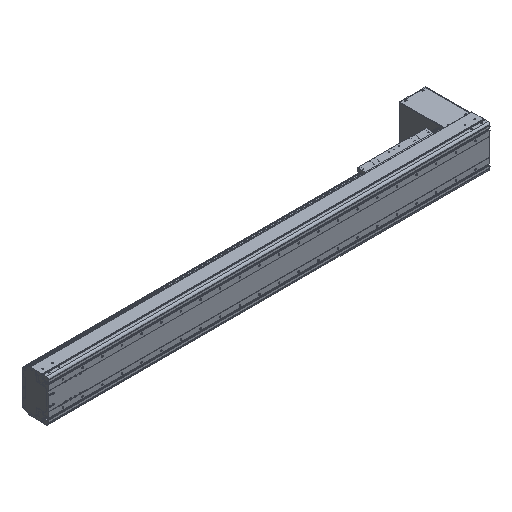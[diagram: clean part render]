
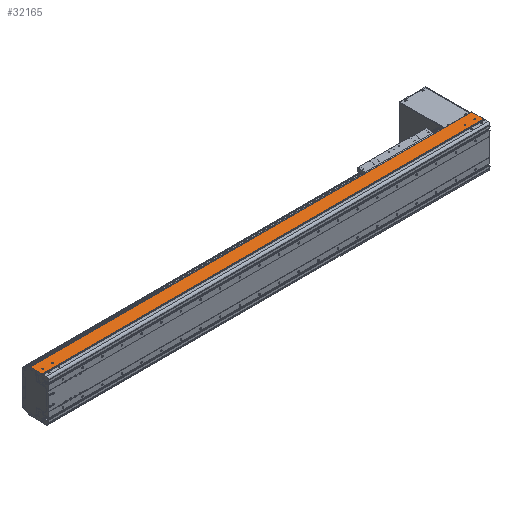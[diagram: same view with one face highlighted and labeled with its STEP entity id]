
A CAD part, isometric view. The second image highlights one B-rep face of the part: STEP entity #32165.
In plain terms, the highlighted planar face has unit normal (0, 0, 1).
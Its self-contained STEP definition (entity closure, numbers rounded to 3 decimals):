
#8553=DIRECTION('',(-1.,-0.006,-0.017));
#8554=VECTOR('',#8553,1.5);
#8555=CARTESIAN_POINT('',(1.5,94.,107.));
#8556=LINE('',#8555,#8554);
#8557=DIRECTION('',(-1.,0.,0.));
#8558=VECTOR('',#8557,2248.5);
#8559=CARTESIAN_POINT('',(0.,93.5,107.));
#8560=LINE('',#8559,#8558);
#8595=CARTESIAN_POINT('',(0.,93.992,106.974));
#8596=CARTESIAN_POINT('',(0.,93.906,
106.974));
#8597=CARTESIAN_POINT('',(0.,93.75,
107.013));
#8598=CARTESIAN_POINT('',(0.,93.581,107.));
#8599=CARTESIAN_POINT('',(0.,93.5,107.));
#8601=CARTESIAN_POINT('',(-2223.5,54.,107.));
#8602=DIRECTION('',(0.,0.,-1.));
#8603=DIRECTION('',(1.,0.,0.));
#8604=AXIS2_PLACEMENT_3D('',#8601,#8602,#8603);
#8606=CARTESIAN_POINT('',(-2223.5,54.,107.));
#8607=DIRECTION('',(0.,0.,-1.));
#8608=DIRECTION('',(-1.,0.,0.));
#8609=AXIS2_PLACEMENT_3D('',#8606,#8607,#8608);
#8611=CARTESIAN_POINT('',(-2173.5,54.,107.));
#8612=DIRECTION('',(0.,0.,-1.));
#8613=DIRECTION('',(1.,0.,0.));
#8614=AXIS2_PLACEMENT_3D('',#8611,#8612,#8613);
#8616=CARTESIAN_POINT('',(-2173.5,54.,107.));
#8617=DIRECTION('',(0.,0.,-1.));
#8618=DIRECTION('',(-1.,0.,0.));
#8619=AXIS2_PLACEMENT_3D('',#8616,#8617,#8618);
#8621=CARTESIAN_POINT('',(-23.5,54.,107.));
#8622=DIRECTION('',(0.,0.,-1.));
#8623=DIRECTION('',(1.,0.,0.));
#8624=AXIS2_PLACEMENT_3D('',#8621,#8622,#8623);
#8626=CARTESIAN_POINT('',(-23.5,54.,107.));
#8627=DIRECTION('',(0.,0.,-1.));
#8628=DIRECTION('',(-1.,0.,0.));
#8629=AXIS2_PLACEMENT_3D('',#8626,#8627,#8628);
#8631=CARTESIAN_POINT('',(-73.5,54.,107.));
#8632=DIRECTION('',(0.,0.,-1.));
#8633=DIRECTION('',(1.,0.,0.));
#8634=AXIS2_PLACEMENT_3D('',#8631,#8632,#8633);
#8636=CARTESIAN_POINT('',(-73.5,54.,107.));
#8637=DIRECTION('',(0.,0.,-1.));
#8638=DIRECTION('',(-1.,0.,0.));
#8639=AXIS2_PLACEMENT_3D('',#8636,#8637,#8638);
#8641=DIRECTION('',(0.,-1.,0.));
#8642=VECTOR('',#8641,2.55);
#8643=CARTESIAN_POINT('',(-2246.5,34.65,107.));
#8644=LINE('',#8643,#8642);
#8645=DIRECTION('',(0.,-1.,0.));
#8646=VECTOR('',#8645,58.85);
#8647=CARTESIAN_POINT('',(-2248.5,93.5,107.));
#8648=LINE('',#8647,#8646);
#8649=DIRECTION('',(0.,1.,0.));
#8650=VECTOR('',#8649,58.35);
#8651=CARTESIAN_POINT('',(1.5,35.65,107.));
#8652=LINE('',#8651,#8650);
#8653=DIRECTION('',(0.,1.,0.));
#8654=VECTOR('',#8653,3.55);
#8655=CARTESIAN_POINT('',(0.,32.1,107.));
#8656=LINE('',#8655,#8654);
#8657=DIRECTION('',(1.,0.,0.));
#8658=VECTOR('',#8657,2246.5);
#8659=CARTESIAN_POINT('',(-2246.5,32.1,107.));
#8660=LINE('',#8659,#8658);
#8769=DIRECTION('',(1.,0.,0.));
#8770=VECTOR('',#8769,2.);
#8771=CARTESIAN_POINT('',(-2248.5,34.65,107.));
#8772=LINE('',#8771,#8770);
#8793=DIRECTION('',(1.,0.,0.));
#8794=VECTOR('',#8793,1.5);
#8795=CARTESIAN_POINT('',(0.,35.65,107.));
#8796=LINE('',#8795,#8794);
#17574=CARTESIAN_POINT('',(1.5,94.,107.));
#17575=VERTEX_POINT('',#17574);
#17576=CARTESIAN_POINT('',(1.5,35.65,107.));
#17577=VERTEX_POINT('',#17576);
#17646=CARTESIAN_POINT('',(-2248.5,34.65,107.));
#17647=VERTEX_POINT('',#17646);
#17648=CARTESIAN_POINT('',(-2248.5,93.5,107.));
#17649=VERTEX_POINT('',#17648);
#17874=CARTESIAN_POINT('',(-2246.5,32.1,107.));
#17875=VERTEX_POINT('',#17874);
#17925=CARTESIAN_POINT('',(0.,32.1,107.));
#17927=VERTEX_POINT('',#17925);
#18508=CARTESIAN_POINT('',(-2221.,54.,107.));
#18509=CARTESIAN_POINT('',(-2226.,54.,107.));
#18510=VERTEX_POINT('',#18508);
#18511=VERTEX_POINT('',#18509);
#18512=CARTESIAN_POINT('',(-2171.,54.,107.));
#18513=CARTESIAN_POINT('',(-2176.,54.,107.));
#18514=VERTEX_POINT('',#18512);
#18515=VERTEX_POINT('',#18513);
#18516=CARTESIAN_POINT('',(-21.,54.,107.));
#18517=CARTESIAN_POINT('',(-26.,54.,107.));
#18518=VERTEX_POINT('',#18516);
#18519=VERTEX_POINT('',#18517);
#18520=CARTESIAN_POINT('',(-71.,54.,107.));
#18521=CARTESIAN_POINT('',(-76.,54.,107.));
#18522=VERTEX_POINT('',#18520);
#18523=VERTEX_POINT('',#18521);
#20786=CARTESIAN_POINT('',(0.,35.65,107.));
#20787=VERTEX_POINT('',#20786);
#20788=CARTESIAN_POINT('',(0.,93.975,106.923));
#20790=VERTEX_POINT('',#20788);
#20933=VERTEX_POINT('',#8599);
#21391=CARTESIAN_POINT('',(-2246.5,34.65,107.));
#21392=VERTEX_POINT('',#21391);
#32121=CARTESIAN_POINT('',(-1123.25,62.8,107.));
#32122=DIRECTION('',(0.,0.,1.));
#32123=DIRECTION('',(0.,-1.,0.));
#32124=AXIS2_PLACEMENT_3D('',#32121,#32122,#32123);
#32125=PLANE('',#32124);
#32126=ORIENTED_EDGE('',*,*,#23209,.F.);
#32128=ORIENTED_EDGE('',*,*,#32127,.F.);
#32129=ORIENTED_EDGE('',*,*,#25429,.F.);
#32130=ORIENTED_EDGE('',*,*,#32105,.F.);
#32131=ORIENTED_EDGE('',*,*,#32116,.F.);
#32132=ORIENTED_EDGE('',*,*,#32095,.F.);
#32133=ORIENTED_EDGE('',*,*,#22135,.F.);
#32135=ORIENTED_EDGE('',*,*,#32134,.F.);
#32136=ORIENTED_EDGE('',*,*,#23966,.F.);
#32138=ORIENTED_EDGE('',*,*,#32137,.F.);
#32139=EDGE_LOOP('',(#32126,#32128,#32129,#32130,#32131,#32132,#32133,#32135,
#32136,#32138));
#32140=FACE_OUTER_BOUND('',#32139,.F.);
#32142=ORIENTED_EDGE('',*,*,#32141,.F.);
#32144=ORIENTED_EDGE('',*,*,#32143,.F.);
#32145=EDGE_LOOP('',(#32142,#32144));
#32146=FACE_BOUND('',#32145,.F.);
#32148=ORIENTED_EDGE('',*,*,#32147,.F.);
#32150=ORIENTED_EDGE('',*,*,#32149,.F.);
#32151=EDGE_LOOP('',(#32148,#32150));
#32152=FACE_BOUND('',#32151,.F.);
#32154=ORIENTED_EDGE('',*,*,#32153,.F.);
#32156=ORIENTED_EDGE('',*,*,#32155,.F.);
#32157=EDGE_LOOP('',(#32154,#32156));
#32158=FACE_BOUND('',#32157,.F.);
#32160=ORIENTED_EDGE('',*,*,#32159,.F.);
#32162=ORIENTED_EDGE('',*,*,#32161,.F.);
#32163=EDGE_LOOP('',(#32160,#32162));
#32164=FACE_BOUND('',#32163,.F.);
#32165=ADVANCED_FACE('',(#32140,#32146,#32152,#32158,#32164),#32125,.T.);
#8600=B_SPLINE_CURVE_WITH_KNOTS('',3,(#8595,#8596,#8597,#8598,#8599),
.UNSPECIFIED.,.F.,.F.,(4,1,4),(0.,0.5,1.),.UNSPECIFIED.);
#8605=CIRCLE('',#8604,2.5);
#8610=CIRCLE('',#8609,2.5);
#8615=CIRCLE('',#8614,2.5);
#8620=CIRCLE('',#8619,2.5);
#8625=CIRCLE('',#8624,2.5);
#8630=CIRCLE('',#8629,2.5);
#8635=CIRCLE('',#8634,2.5);
#8640=CIRCLE('',#8639,2.5);
#22135=EDGE_CURVE('',#17577,#17575,#8652,.T.);
#23209=EDGE_CURVE('',#21392,#17875,#8644,.T.);
#23966=EDGE_CURVE('',#17927,#20787,#8656,.T.);
#25429=EDGE_CURVE('',#17649,#17647,#8648,.T.);
#32095=EDGE_CURVE('',#17575,#20790,#8556,.T.);
#32105=EDGE_CURVE('',#20933,#17649,#8560,.T.);
#32116=EDGE_CURVE('',#20790,#20933,#8600,.T.);
#32127=EDGE_CURVE('',#17647,#21392,#8772,.T.);
#32134=EDGE_CURVE('',#20787,#17577,#8796,.T.);
#32137=EDGE_CURVE('',#17875,#17927,#8660,.T.);
#32141=EDGE_CURVE('',#18514,#18515,#8615,.T.);
#32143=EDGE_CURVE('',#18515,#18514,#8620,.T.);
#32147=EDGE_CURVE('',#18518,#18519,#8625,.T.);
#32149=EDGE_CURVE('',#18519,#18518,#8630,.T.);
#32153=EDGE_CURVE('',#18522,#18523,#8635,.T.);
#32155=EDGE_CURVE('',#18523,#18522,#8640,.T.);
#32159=EDGE_CURVE('',#18510,#18511,#8605,.T.);
#32161=EDGE_CURVE('',#18511,#18510,#8610,.T.);
